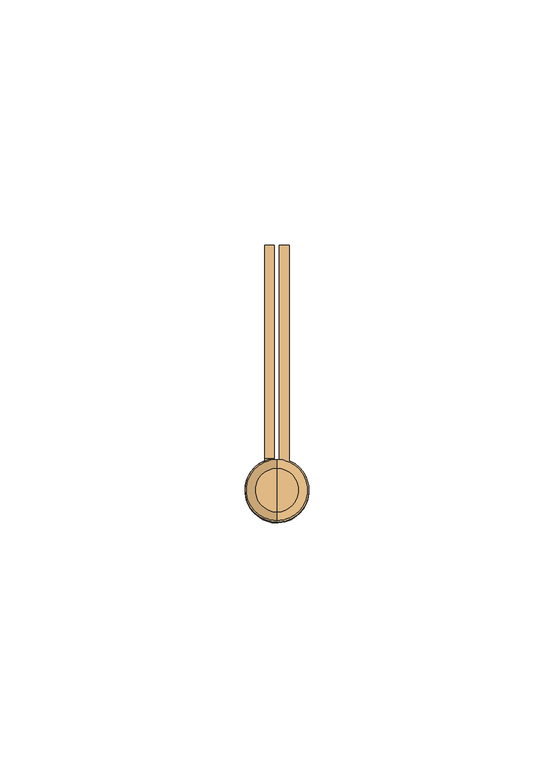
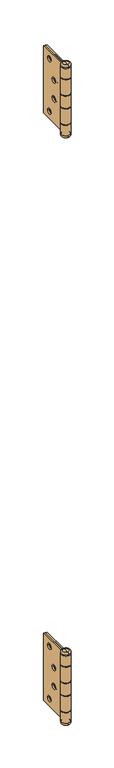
"""IFC4 building model written with IfcOpenShell, lengths in millimetres: door geometry, Puerta contraplacada : Puerta contraplacada 0.7x2.10 m."""

from ifc_helpers import new_model, si_unit, point, frame, origin, place, context, project, spatial, polyline, circle_curve, ellipse_curve, trimmed, source, transform, mapped, element, save
from ifc_brep_helpers import plane_surface, cylinder_surface, revolved_surface, advanced_brep


def door_81789954(model_context):
    return source(origin(), model_context, "Body", "AdvancedBrep", [
        advanced_brep(
        [(-314.0, -7.5, 1950.0), (-314.0, -51.5, 1950.0), (-314.0, -51.5, 1934.5), (-314.0, -51.0, 1934.5), (-314.0, -51.0, 1909.0), (-314.0, -51.5, 1909.0), (-314.0, -51.5, 1891.0), (-314.0, -51.0, 1891.0), (-314.0, -51.0, 1865.5), (-314.0, -51.5, 1865.5), (-314.0, -51.5, 1850.0), (-314.0, -7.5, 1850.0), (-314.0, -17.5, 1861.0), (-314.0, -25.5, 1861.0), (-314.0, -28.5, 1886.0), (-314.0, -36.5, 1886.0), (-314.0, -17.5, 1939.0), (-314.0, -25.5, 1939.0), (-314.0, -28.5, 1914.0), (-314.0, -36.5, 1914.0), (-316.0, -7.5, 1850.0), (-316.0, -53.027864, 1850.0), (-316.0, -53.027864, 1865.5), (-316.0, -51.0, 1865.5), (-316.0, -51.0, 1891.0), (-316.0, -53.027864, 1891.0), (-316.0, -53.027864, 1909.0), (-316.0, -51.0, 1909.0), (-316.0, -51.0, 1934.5), (-316.0, -53.027864, 1934.5), (-316.0, -53.027864, 1950.0), (-316.0, -7.5, 1950.0), (-316.0, -25.5, 1861.0), (-316.0, -17.5, 1861.0), (-316.0, -36.5, 1886.0), (-316.0, -28.5, 1886.0), (-316.0, -25.5, 1939.0), (-316.0, -17.5, 1939.0), (-316.0, -36.5, 1914.0), (-316.0, -28.5, 1914.0), (-317.0, -51.0192593, 1850.0), (-317.0, -53.027864, 1850.0), (-317.0, -53.027864, 1950.0), (-317.0, -51.0192593, 1950.0), (-317.0, -51.0192593, 1934.5), (-317.0, -53.027864, 1934.5), (-317.0, -53.027864, 1909.0), (-317.0, -51.0192593, 1909.0), (-317.0, -51.0192593, 1891.0), (-317.0, -53.027864, 1891.0), (-317.0, -53.027864, 1865.5), (-317.0, -51.0192593, 1865.5)],
        [
            (0, 1),
            (1, 2),
            (2, 3),
            (3, 4),
            (4, 5),
            (5, 6),
            (6, 7),
            (7, 8),
            (8, 9),
            (9, 10),
            (10, 11),
            (11, 0),
            (12, 13, circle_curve(frame((-314.0, -21.5, 1861.0), z_axis=(-1.0, 0.0, 0.0), x_axis=(0.0, 1.0, 0.0)), 4.0)),
            (13, 12, circle_curve(frame((-314.0, -21.5, 1861.0), z_axis=(-1.0, 0.0, 0.0), x_axis=(0.0, 1.0, 0.0)), 4.0)),
            (14, 15, circle_curve(frame((-314.0, -32.5, 1886.0), z_axis=(-1.0, 0.0, 0.0), x_axis=(0.0, 1.0, 0.0)), 4.0)),
            (15, 14, circle_curve(frame((-314.0, -32.5, 1886.0), z_axis=(-1.0, 0.0, 0.0), x_axis=(0.0, 1.0, 0.0)), 4.0)),
            (16, 17, circle_curve(frame((-314.0, -21.5, 1939.0), z_axis=(-1.0, 0.0, 0.0), x_axis=(0.0, 1.0, 0.0)), 4.0)),
            (17, 16, circle_curve(frame((-314.0, -21.5, 1939.0), z_axis=(-1.0, 0.0, 0.0), x_axis=(0.0, 1.0, 0.0)), 4.0)),
            (18, 19, circle_curve(frame((-314.0, -32.5, 1914.0), z_axis=(-1.0, 0.0, 0.0), x_axis=(0.0, 1.0, 0.0)), 4.0)),
            (19, 18, circle_curve(frame((-314.0, -32.5, 1914.0), z_axis=(-1.0, 0.0, 0.0), x_axis=(0.0, 1.0, 0.0)), 4.0)),
            (20, 21),
            (21, 22),
            (22, 23),
            (23, 24),
            (24, 25),
            (25, 26),
            (26, 27),
            (27, 28),
            (28, 29),
            (29, 30),
            (30, 31),
            (31, 20),
            (32, 33, circle_curve(frame((-316.0, -21.5, 1861.0), z_axis=(1.0, 0.0, 0.0), x_axis=(0.0, 1.0, 0.0)), 4.0)),
            (33, 32, circle_curve(frame((-316.0, -21.5, 1861.0), z_axis=(1.0, 0.0, 0.0), x_axis=(0.0, 1.0, 0.0)), 4.0)),
            (34, 35, circle_curve(frame((-316.0, -32.5, 1886.0), z_axis=(1.0, 0.0, 0.0), x_axis=(0.0, 1.0, 0.0)), 4.0)),
            (35, 34, circle_curve(frame((-316.0, -32.5, 1886.0), z_axis=(1.0, 0.0, 0.0), x_axis=(0.0, 1.0, 0.0)), 4.0)),
            (36, 37, circle_curve(frame((-316.0, -21.5, 1939.0), z_axis=(1.0, 0.0, 0.0), x_axis=(0.0, 1.0, 0.0)), 4.0)),
            (37, 36, circle_curve(frame((-316.0, -21.5, 1939.0), z_axis=(1.0, 0.0, 0.0), x_axis=(0.0, 1.0, 0.0)), 4.0)),
            (38, 39, circle_curve(frame((-316.0, -32.5, 1914.0), z_axis=(1.0, 0.0, 0.0), x_axis=(0.0, 1.0, 0.0)), 4.0)),
            (39, 38, circle_curve(frame((-316.0, -32.5, 1914.0), z_axis=(1.0, 0.0, 0.0), x_axis=(0.0, 1.0, 0.0)), 4.0)),
            (10, 40, circle_curve(frame((-316.5, -57.5, 1850.0), z_axis=(0.0, 0.0, -1.0), x_axis=(0.0, -1.0, 0.0)), 6.5)),
            (40, 41),
            (41, 21, circle_curve(frame((-316.5, -57.5, 1850.0), z_axis=(0.0, 0.0, 1.0), x_axis=(0.0, -1.0, 0.0)), 4.5)),
            (20, 11),
            (31, 0),
            (30, 42, circle_curve(frame((-316.5, -57.5, 1950.0), z_axis=(0.0, 0.0, -1.0), x_axis=(0.0, -1.0, 0.0)), 4.5)),
            (42, 43),
            (43, 1, circle_curve(frame((-316.5, -57.5, 1950.0), z_axis=(0.0, 0.0, 1.0), x_axis=(0.0, -1.0, 0.0)), 6.5)),
            (27, 4),
            (3, 28),
            (23, 8),
            (7, 24),
            (2, 44, circle_curve(frame((-316.5, -57.5, 1934.5), z_axis=(0.0, 0.0, -1.0), x_axis=(0.0, -1.0, 0.0)), 6.5)),
            (44, 45),
            (45, 29, circle_curve(frame((-316.5, -57.5, 1934.5), z_axis=(0.0, 0.0, 1.0), x_axis=(0.0, -1.0, 0.0)), 4.5)),
            (43, 44),
            (42, 45),
            (26, 46, circle_curve(frame((-316.5, -57.5, 1909.0), z_axis=(0.0, 0.0, -1.0), x_axis=(0.0, -1.0, 0.0)), 4.5)),
            (46, 47),
            (47, 5, circle_curve(frame((-316.5, -57.5, 1909.0), z_axis=(0.0, 0.0, 1.0), x_axis=(0.0, -1.0, 0.0)), 6.5)),
            (6, 48, circle_curve(frame((-316.5, -57.5, 1891.0), z_axis=(0.0, 0.0, -1.0), x_axis=(0.0, -1.0, 0.0)), 6.5)),
            (48, 49),
            (49, 25, circle_curve(frame((-316.5, -57.5, 1891.0), z_axis=(0.0, 0.0, 1.0), x_axis=(0.0, -1.0, 0.0)), 4.5)),
            (47, 48),
            (46, 49),
            (22, 50, circle_curve(frame((-316.5, -57.5, 1865.5), z_axis=(0.0, 0.0, -1.0), x_axis=(0.0, -1.0, 0.0)), 4.5)),
            (50, 51),
            (51, 9, circle_curve(frame((-316.5, -57.5, 1865.5), z_axis=(0.0, 0.0, 1.0), x_axis=(0.0, -1.0, 0.0)), 6.5)),
            (51, 40),
            (50, 41),
            (33, 12),
            (13, 32),
            (35, 14),
            (15, 34),
            (37, 16),
            (17, 36),
            (39, 18),
            (19, 38),
        ],
        [
            plane_surface(frame((-314.0, -51.0, 1850.0), z_axis=(1.0, 0.0, 0.0), x_axis=(0.0, 0.0, 1.0))),
            plane_surface(frame((-316.0, -51.0, 1850.0), z_axis=(-1.0, 0.0, 0.0), x_axis=(0.0, 0.0, -1.0))),
            plane_surface(frame((-314.0, -7.5, 1850.0), z_axis=(0.0, 0.0, -1.0), x_axis=(-1.0, 0.0, 0.0))),
            plane_surface(frame((-314.0, -7.5, 1950.0), z_axis=(0.0, 1.0, 0.0), x_axis=(-1.0, 0.0, 0.0))),
            plane_surface(frame((-314.0, -51.0, 1950.0), z_axis=(0.0, 0.0, 1.0), x_axis=(-1.0, 0.0, 0.0))),
            plane_surface(frame((-314.0, -51.0, 1850.0), z_axis=(0.0, -1.0, 0.0), x_axis=(-1.0, 0.0, 0.0))),
            plane_surface(frame((-316.0, -51.0, 1934.5), z_axis=(0.0, 0.0, -1.0), x_axis=(0.0, -1.0, 0.0))),
            cylinder_surface(frame((-316.5, -57.5, 1934.5), z_axis=(0.0, 0.0, 1.0), x_axis=(0.0, -1.0, 0.0)), 6.5),
            plane_surface(frame((-317.0, -51.0192593, 1950.0), z_axis=(1.0, 0.0, 0.0), x_axis=(0.0, 0.0, -1.0))),
            revolved_surface(polyline([(-316.5, -62.0, 1934.5), (-316.5, -62.0, 1950.0)]), (-316.5, -57.5, 1934.5), (0.0, 0.0, -1.0)),
            plane_surface(frame((-316.0, -51.0, 1909.0), z_axis=(0.0, 0.0, 1.0), x_axis=(0.0, 1.0, 0.0))),
            plane_surface(frame((-316.0, -51.0, 1891.0), z_axis=(0.0, 0.0, -1.0), x_axis=(0.0, -1.0, 0.0))),
            cylinder_surface(frame((-316.5, -57.5, 1891.0), z_axis=(0.0, 0.0, 1.0), x_axis=(0.0, -1.0, 0.0)), 6.5),
            plane_surface(frame((-317.0, -51.0192593, 1909.0), z_axis=(1.0, 0.0, 0.0), x_axis=(0.0, 0.0, -1.0))),
            revolved_surface(polyline([(-316.5, -62.0, 1891.0), (-316.5, -62.0, 1909.0)]), (-316.5, -57.5, 1891.0), (0.0, 0.0, -1.0)),
            plane_surface(frame((-316.0, -51.0, 1865.5), z_axis=(0.0, 0.0, 1.0), x_axis=(0.0, 1.0, 0.0))),
            cylinder_surface(frame((-316.5, -57.5, 1850.0), z_axis=(0.0, 0.0, 1.0), x_axis=(0.0, -1.0, 0.0)), 6.5),
            plane_surface(frame((-317.0, -51.0192593, 1865.5), z_axis=(1.0, 0.0, 0.0), x_axis=(0.0, 0.0, -1.0))),
            revolved_surface(polyline([(-316.5, -62.0, 1850.0), (-316.5, -62.0, 1865.5)]), (-316.5, -57.5, 1850.0), (0.0, 0.0, -1.0)),
            revolved_surface(polyline([(-314.0, -17.5, 1861.0), (-316.0, -17.5, 1861.0)]), (-319.0, -21.5, 1861.0), (1.0, 0.0, 0.0)),
            revolved_surface(polyline([(-314.0, -28.5, 1886.0), (-316.0, -28.5, 1886.0)]), (-317.0, -32.5, 1886.0), (1.0, 0.0, 0.0)),
            revolved_surface(polyline([(-314.0, -17.5, 1939.0), (-316.0, -17.5, 1939.0)]), (-317.0, -21.5, 1939.0), (1.0, 0.0, 0.0)),
            revolved_surface(polyline([(-314.0, -28.5, 1914.0), (-316.0, -28.5, 1914.0)]), (-317.0, -32.5, 1914.0), (1.0, 0.0, 0.0)),
        ],
        [
            (0, [[1, 2, 3, 4, 5, 6, 7, 8, 9, 10, 11, 12], [13, 14], [15, 16], [17, 18], [19, 20]]),
            (1, [[21, 22, 23, 24, 25, 26, 27, 28, 29, 30, 31, 32], [33, 34], [35, 36], [37, 38], [39, 40]]),
            (2, [[-11, 41, 42, 43, -21, 44]]),
            (3, [[-44, -32, 45, -12]]),
            (4, [[-31, 46, 47, 48, -1, -45]]),
            (5, [[-28, 49, -4, 50]]),
            (5, [[-24, 51, -8, 52]]),
            (6, [[-29, -50, -3, 53, 54, 55]]),
            (7, [[56, -53, -2, -48]]),
            (8, [[57, -54, -56, -47]]),
            (9, [[-30, -55, -57, -46]]),
            (10, [[-5, -49, -27, 58, 59, 60]]),
            (11, [[-25, -52, -7, 61, 62, 63]]),
            (12, [[64, -61, -6, -60]]),
            (13, [[65, -62, -64, -59]]),
            (14, [[-26, -63, -65, -58]]),
            (15, [[-9, -51, -23, 66, 67, 68]]),
            (16, [[69, -41, -10, -68]]),
            (17, [[70, -42, -69, -67]]),
            (18, [[-22, -43, -70, -66]]),
            (19, [[-34, 71, -14, 72]]),
            (19, [[-13, -71, -33, -72]]),
            (20, [[-36, 73, -16, 74]]),
            (20, [[-15, -73, -35, -74]]),
            (21, [[-38, 75, -18, 76]]),
            (21, [[-17, -75, -37, -76]]),
            (22, [[-40, 77, -20, 78]]),
            (22, [[-19, -77, -39, -78]]),
        ],
    ),
        advanced_brep(
        [(-316.5, -53.0, 1954.0), (-316.5, -53.0, 1950.5), (-316.5, -61.9442719, 1950.5), (-316.5, -61.9442719, 1954.0), (-316.5, -57.472136, 1954.0), (-316.5, -53.0, 1846.0), (-316.5, -57.472136, 1846.0), (-316.5, -61.9442719, 1846.0), (-316.5, -53.0, 1849.5), (-316.5, -61.9442719, 1849.5)],
        [
            (0, 1, circle_curve(frame((-316.5, -53.0, 1952.25), z_axis=(-1.0, 0.0, 0.0), x_axis=(0.0, -1.0, 0.0)), 1.75)),
            (1, 2, circle_curve(frame((-316.5, -57.472136, 1950.5), z_axis=(0.0, 0.0, 1.0), x_axis=(0.0, -1.0, 0.0)), 4.472136)),
            (2, 3, circle_curve(frame((-316.5, -61.9442719, 1952.25), z_axis=(-1.0, 0.0, 0.0), x_axis=(0.0, 1.0, 0.0)), 1.75)),
            (3, 0, circle_curve(frame((-316.5, -57.472136, 1954.0), z_axis=(0.0, 0.0, -1.0), x_axis=(0.0, -1.0, 0.0)), 4.472136)),
            (2, 1, circle_curve(frame((-316.5, -57.472136, 1950.5), z_axis=(0.0, 0.0, 1.0), x_axis=(0.0, -1.0, 0.0)), 4.472136)),
            (0, 3, circle_curve(frame((-316.5, -57.472136, 1954.0), z_axis=(0.0, 0.0, -1.0), x_axis=(0.0, -1.0, 0.0)), 4.472136)),
            (4, 0),
            (3, 4),
            (5, 6),
            (6, 7),
            (7, 5, circle_curve(frame((-316.5, -57.472136, 1846.0), z_axis=(0.0, 0.0, -1.0), x_axis=(0.0, -1.0, 0.0)), 4.472136)),
            (5, 7, circle_curve(frame((-316.5, -57.472136, 1846.0), z_axis=(0.0, 0.0, -1.0), x_axis=(0.0, -1.0, 0.0)), 4.472136)),
            (8, 5, circle_curve(frame((-316.5, -53.0, 1847.75), z_axis=(-1.0, 0.0, 0.0), x_axis=(0.0, -1.0, 0.0)), 1.75)),
            (7, 9, circle_curve(frame((-316.5, -61.9442719, 1847.75), z_axis=(-1.0, 0.0, 0.0), x_axis=(0.0, 1.0, 0.0)), 1.75)),
            (9, 8, circle_curve(frame((-316.5, -57.472136, 1849.5), z_axis=(0.0, 0.0, -1.0), x_axis=(0.0, -1.0, 0.0)), 4.472136)),
            (8, 9, circle_curve(frame((-316.5, -57.472136, 1849.5), z_axis=(0.0, 0.0, -1.0), x_axis=(0.0, -1.0, 0.0)), 4.472136)),
            (1, 8),
            (9, 2),
        ],
        [
            revolved_surface(trimmed(ellipse_curve(frame((-316.5, -61.9442719, 1952.25), z_axis=(-1.0, 0.0, 0.0), x_axis=(0.0, 1.0, 0.0)), 1.75, 1.75), [point((-316.5, -61.9442719, 1950.5))], [point((-316.5, -61.9442719, 1954.0))], True, "CARTESIAN"), (-316.5, -57.472136, 1954.0), (0.0, 0.0, 1.0)),
            plane_surface(frame((-316.5, -57.472136, 1954.0), z_axis=(0.0, 0.0, 1.0), x_axis=(0.0, -1.0, 0.0))),
            plane_surface(frame((-316.5, -57.472136, 1846.0), z_axis=(0.0, 0.0, -1.0), x_axis=(0.0, -1.0, 0.0))),
            revolved_surface(trimmed(ellipse_curve(frame((-316.5, -61.9442719, 1847.75), z_axis=(-1.0, 0.0, 0.0), x_axis=(0.0, 1.0, 0.0)), 1.75, 1.75), [point((-316.5, -61.9442719, 1846.0))], [point((-316.5, -61.9442719, 1849.5))], True, "CARTESIAN"), (-316.5, -57.472136, 1954.0), (0.0, 0.0, 1.0)),
            cylinder_surface(frame((-316.5, -57.472136, 1954.0), z_axis=(0.0, 0.0, 1.0), x_axis=(0.0, -1.0, 0.0)), 4.472136),
        ],
        [
            (0, [[1, 2, 3, 4]]),
            (0, [[-3, 5, -1, 6]]),
            (1, [[7, -4, 8]]),
            (1, [[-8, -6, -7]]),
            (2, [[9, 10, 11]]),
            (2, [[-10, -9, 12]]),
            (3, [[13, -11, 14, 15]]),
            (3, [[-14, -12, -13, 16]]),
            (4, [[17, -15, 18, -2]]),
            (4, [[-18, -16, -17, -5]]),
        ],
    ),
        advanced_brep(
        [(-317.0, -51.0, 1950.0), (-317.0, -51.0, 1933.5), (-317.0, -53.027864, 1933.5), (-317.0, -53.027864, 1910.0), (-317.0, -51.0, 1910.0), (-317.0, -51.0, 1890.0), (-317.0, -53.027864, 1890.0), (-317.0, -53.027864, 1866.5), (-317.0, -51.0, 1866.5), (-317.0, -51.0, 1850.0), (-317.0, -7.5, 1850.0), (-317.0, -7.5, 1950.0), (-317.0, -17.5, 1861.0), (-317.0, -25.5, 1861.0), (-317.0, -28.5, 1886.0), (-317.0, -36.5, 1886.0), (-317.0, -17.5, 1939.0), (-317.0, -25.5, 1939.0), (-317.0, -28.5, 1914.0), (-317.0, -36.5, 1914.0), (-319.0, -51.0, 1850.0), (-319.0, -51.0, 1866.5), (-319.0, -51.5, 1866.5), (-319.0, -51.5, 1890.0), (-319.0, -51.0, 1890.0), (-319.0, -51.0, 1910.0), (-319.0, -51.5, 1910.0), (-319.0, -51.5, 1933.5), (-319.0, -51.0, 1933.5), (-319.0, -51.0, 1950.0), (-319.0, -7.5, 1950.0), (-319.0, -7.5, 1850.0), (-319.0, -25.5, 1861.0), (-319.0, -17.5, 1861.0), (-319.0, -36.5, 1886.0), (-319.0, -28.5, 1886.0), (-319.0, -25.5, 1939.0), (-319.0, -17.5, 1939.0), (-319.0, -36.5, 1914.0), (-319.0, -28.5, 1914.0), (-316.0, -51.0192593, 1933.5), (-316.0, -53.027864, 1933.5), (-316.0, -53.027864, 1910.0), (-316.0, -51.0192593, 1910.0), (-316.0, -51.0192593, 1890.0), (-316.0, -53.027864, 1890.0), (-316.0, -53.027864, 1866.5), (-316.0, -51.0192593, 1866.5)],
        [
            (0, 1),
            (1, 2),
            (2, 3),
            (3, 4),
            (4, 5),
            (5, 6),
            (6, 7),
            (7, 8),
            (8, 9),
            (9, 10),
            (10, 11),
            (11, 0),
            (12, 13, circle_curve(frame((-317.0, -21.5, 1861.0), z_axis=(-1.0, 0.0, 0.0), x_axis=(0.0, 1.0, 0.0)), 4.0)),
            (13, 12, circle_curve(frame((-317.0, -21.5, 1861.0), z_axis=(-1.0, 0.0, 0.0), x_axis=(0.0, 1.0, 0.0)), 4.0)),
            (14, 15, circle_curve(frame((-317.0, -32.5, 1886.0), z_axis=(-1.0, 0.0, 0.0), x_axis=(0.0, 1.0, 0.0)), 4.0)),
            (15, 14, circle_curve(frame((-317.0, -32.5, 1886.0), z_axis=(-1.0, 0.0, 0.0), x_axis=(0.0, 1.0, 0.0)), 4.0)),
            (16, 17, circle_curve(frame((-317.0, -21.5, 1939.0), z_axis=(-1.0, 0.0, 0.0), x_axis=(0.0, 1.0, 0.0)), 4.0)),
            (17, 16, circle_curve(frame((-317.0, -21.5, 1939.0), z_axis=(-1.0, 0.0, 0.0), x_axis=(0.0, 1.0, 0.0)), 4.0)),
            (18, 19, circle_curve(frame((-317.0, -32.5, 1914.0), z_axis=(-1.0, 0.0, 0.0), x_axis=(0.0, 1.0, 0.0)), 4.0)),
            (19, 18, circle_curve(frame((-317.0, -32.5, 1914.0), z_axis=(-1.0, 0.0, 0.0), x_axis=(0.0, 1.0, 0.0)), 4.0)),
            (20, 21),
            (21, 22),
            (22, 23),
            (23, 24),
            (24, 25),
            (25, 26),
            (26, 27),
            (27, 28),
            (28, 29),
            (29, 30),
            (30, 31),
            (31, 20),
            (32, 33, circle_curve(frame((-319.0, -21.5, 1861.0), z_axis=(1.0, 0.0, 0.0), x_axis=(0.0, 1.0, 0.0)), 4.0)),
            (33, 32, circle_curve(frame((-319.0, -21.5, 1861.0), z_axis=(1.0, 0.0, 0.0), x_axis=(0.0, 1.0, 0.0)), 4.0)),
            (34, 35, circle_curve(frame((-319.0, -32.5, 1886.0), z_axis=(1.0, 0.0, 0.0), x_axis=(0.0, 1.0, 0.0)), 4.0)),
            (35, 34, circle_curve(frame((-319.0, -32.5, 1886.0), z_axis=(1.0, 0.0, 0.0), x_axis=(0.0, 1.0, 0.0)), 4.0)),
            (36, 37, circle_curve(frame((-319.0, -21.5, 1939.0), z_axis=(1.0, 0.0, 0.0), x_axis=(0.0, 1.0, 0.0)), 4.0)),
            (37, 36, circle_curve(frame((-319.0, -21.5, 1939.0), z_axis=(1.0, 0.0, 0.0), x_axis=(0.0, 1.0, 0.0)), 4.0)),
            (38, 39, circle_curve(frame((-319.0, -32.5, 1914.0), z_axis=(1.0, 0.0, 0.0), x_axis=(0.0, 1.0, 0.0)), 4.0)),
            (39, 38, circle_curve(frame((-319.0, -32.5, 1914.0), z_axis=(1.0, 0.0, 0.0), x_axis=(0.0, 1.0, 0.0)), 4.0)),
            (9, 20),
            (31, 10),
            (30, 11),
            (29, 0),
            (8, 21),
            (28, 1),
            (24, 5),
            (4, 25),
            (27, 40, circle_curve(frame((-316.5, -57.5, 1933.5), z_axis=(0.0, 0.0, 1.0), x_axis=(0.0, -1.0, 0.0)), 6.5)),
            (40, 41),
            (41, 2, circle_curve(frame((-316.5, -57.5, 1933.5), z_axis=(0.0, 0.0, -1.0), x_axis=(0.0, -1.0, 0.0)), 4.5)),
            (3, 42, circle_curve(frame((-316.5, -57.5, 1910.0), z_axis=(0.0, 0.0, 1.0), x_axis=(0.0, -1.0, 0.0)), 4.5)),
            (42, 43),
            (43, 26, circle_curve(frame((-316.5, -57.5, 1910.0), z_axis=(0.0, 0.0, -1.0), x_axis=(0.0, -1.0, 0.0)), 6.5)),
            (43, 40),
            (42, 41),
            (23, 44, circle_curve(frame((-316.5, -57.5, 1890.0), z_axis=(0.0, 0.0, 1.0), x_axis=(0.0, -1.0, 0.0)), 6.5)),
            (44, 45),
            (45, 6, circle_curve(frame((-316.5, -57.5, 1890.0), z_axis=(0.0, 0.0, -1.0), x_axis=(0.0, -1.0, 0.0)), 4.5)),
            (7, 46, circle_curve(frame((-316.5, -57.5, 1866.5), z_axis=(0.0, 0.0, 1.0), x_axis=(0.0, -1.0, 0.0)), 4.5)),
            (46, 47),
            (47, 22, circle_curve(frame((-316.5, -57.5, 1866.5), z_axis=(0.0, 0.0, -1.0), x_axis=(0.0, -1.0, 0.0)), 6.5)),
            (47, 44),
            (46, 45),
            (33, 12),
            (13, 32),
            (35, 14),
            (15, 34),
            (37, 16),
            (17, 36),
            (39, 18),
            (19, 38),
        ],
        [
            plane_surface(frame((-317.0, -51.0, 1850.0), z_axis=(1.0, 0.0, 0.0), x_axis=(0.0, 0.0, 1.0))),
            plane_surface(frame((-319.0, -51.0, 1850.0), z_axis=(-1.0, 0.0, 0.0), x_axis=(0.0, 0.0, -1.0))),
            plane_surface(frame((-317.0, -7.5, 1850.0), z_axis=(0.0, 0.0, -1.0), x_axis=(-1.0, 0.0, 0.0))),
            plane_surface(frame((-317.0, -7.5, 1950.0), z_axis=(0.0, 1.0, 0.0), x_axis=(-1.0, 0.0, 0.0))),
            plane_surface(frame((-317.0, -51.0, 1950.0), z_axis=(0.0, 0.0, 1.0), x_axis=(-1.0, 0.0, 0.0))),
            plane_surface(frame((-317.0, -51.0, 1850.0), z_axis=(0.0, -1.0, 0.0), x_axis=(-1.0, 0.0, 0.0))),
            plane_surface(frame((-316.5, -62.0, 1933.5), z_axis=(0.0, 0.0, 1.0), x_axis=(1.0, 0.0, 0.0))),
            plane_surface(frame((-316.5, -62.0, 1910.0), z_axis=(0.0, 0.0, -1.0), x_axis=(-1.0, 0.0, 0.0))),
            cylinder_surface(frame((-316.5, -57.5, 1910.0), z_axis=(0.0, 0.0, 1.0), x_axis=(0.0, -1.0, 0.0)), 6.5),
            plane_surface(frame((-316.0, -53.027864, 1933.5), z_axis=(-1.0, 0.0, 0.0), x_axis=(0.0, 0.0, -1.0))),
            revolved_surface(polyline([(-316.5, -62.0, 1910.0), (-316.5, -62.0, 1933.5)]), (-316.5, -57.5, 1910.0), (0.0, 0.0, -1.0)),
            plane_surface(frame((-316.5, -62.0, 1890.0), z_axis=(0.0, 0.0, 1.0), x_axis=(1.0, 0.0, 0.0))),
            plane_surface(frame((-316.5, -62.0, 1866.5), z_axis=(0.0, 0.0, -1.0), x_axis=(-1.0, 0.0, 0.0))),
            cylinder_surface(frame((-316.5, -57.5, 1866.5), z_axis=(0.0, 0.0, 1.0), x_axis=(0.0, -1.0, 0.0)), 6.5),
            plane_surface(frame((-316.0, -53.027864, 1890.0), z_axis=(-1.0, 0.0, 0.0), x_axis=(0.0, 0.0, -1.0))),
            revolved_surface(polyline([(-316.5, -62.0, 1866.5), (-316.5, -62.0, 1890.0)]), (-316.5, -57.5, 1866.5), (0.0, 0.0, -1.0)),
            revolved_surface(polyline([(-317.0, -17.5, 1861.0), (-319.0, -17.5, 1861.0)]), (-319.0, -21.5, 1861.0), (1.0, 0.0, 0.0)),
            revolved_surface(polyline([(-317.0, -28.5, 1886.0), (-319.0, -28.5, 1886.0)]), (-317.0, -32.5, 1886.0), (1.0, 0.0, 0.0)),
            revolved_surface(polyline([(-317.0, -17.5, 1939.0), (-319.0, -17.5, 1939.0)]), (-317.0, -21.5, 1939.0), (1.0, 0.0, 0.0)),
            revolved_surface(polyline([(-317.0, -28.5, 1914.0), (-319.0, -28.5, 1914.0)]), (-317.0, -32.5, 1914.0), (1.0, 0.0, 0.0)),
        ],
        [
            (0, [[1, 2, 3, 4, 5, 6, 7, 8, 9, 10, 11, 12], [13, 14], [15, 16], [17, 18], [19, 20]]),
            (1, [[21, 22, 23, 24, 25, 26, 27, 28, 29, 30, 31, 32], [33, 34], [35, 36], [37, 38], [39, 40]]),
            (2, [[41, -32, 42, -10]]),
            (3, [[-42, -31, 43, -11]]),
            (4, [[-43, -30, 44, -12]]),
            (5, [[-9, 45, -21, -41]]),
            (5, [[-29, 46, -1, -44]]),
            (5, [[-25, 47, -5, 48]]),
            (6, [[-2, -46, -28, 49, 50, 51]]),
            (7, [[-26, -48, -4, 52, 53, 54]]),
            (8, [[-27, -54, 55, -49]]),
            (9, [[-55, -53, 56, -50]]),
            (10, [[-56, -52, -3, -51]]),
            (11, [[-6, -47, -24, 57, 58, 59]]),
            (12, [[-22, -45, -8, 60, 61, 62]]),
            (13, [[-23, -62, 63, -57]]),
            (14, [[-63, -61, 64, -58]]),
            (15, [[-64, -60, -7, -59]]),
            (16, [[-34, 65, -14, 66]]),
            (16, [[-13, -65, -33, -66]]),
            (17, [[-36, 67, -16, 68]]),
            (17, [[-15, -67, -35, -68]]),
            (18, [[-38, 69, -18, 70]]),
            (18, [[-17, -69, -37, -70]]),
            (19, [[-40, 71, -20, 72]]),
            (19, [[-19, -71, -39, -72]]),
        ],
    ),
        advanced_brep(
        [(-314.0, -7.5, 1075.0174632), (-314.0, -51.5, 1075.0174632), (-314.0, -51.5, 1059.5174632), (-314.0, -51.0, 1059.5174632), (-314.0, -51.0, 1034.0174632), (-314.0, -51.5, 1034.0174632), (-314.0, -51.5, 1016.0174632), (-314.0, -51.0, 1016.0174632), (-314.0, -51.0, 990.5174632), (-314.0, -51.5, 990.5174632), (-314.0, -51.5, 975.0174632), (-314.0, -7.5, 975.0174632), (-314.0, -17.5, 986.0174632), (-314.0, -25.5, 986.0174632), (-314.0, -28.5, 1011.0174632), (-314.0, -36.5, 1011.0174632), (-314.0, -17.5, 1064.0174632), (-314.0, -25.5, 1064.0174632), (-314.0, -28.5, 1039.0174632), (-314.0, -36.5, 1039.0174632), (-316.0, -7.5, 975.0174632), (-316.0, -53.027864, 975.0174632), (-316.0, -53.027864, 990.5174632), (-316.0, -51.0, 990.5174632), (-316.0, -51.0, 1016.0174632), (-316.0, -53.027864, 1016.0174632), (-316.0, -53.027864, 1034.0174632), (-316.0, -51.0, 1034.0174632), (-316.0, -51.0, 1059.5174632), (-316.0, -53.027864, 1059.5174632), (-316.0, -53.027864, 1075.0174632), (-316.0, -7.5, 1075.0174632), (-316.0, -25.5, 986.0174632), (-316.0, -17.5, 986.0174632), (-316.0, -36.5, 1011.0174632), (-316.0, -28.5, 1011.0174632), (-316.0, -25.5, 1064.0174632), (-316.0, -17.5, 1064.0174632), (-316.0, -36.5, 1039.0174632), (-316.0, -28.5, 1039.0174632), (-317.0, -51.0192593, 975.0174632), (-317.0, -53.027864, 975.0174632), (-317.0, -53.027864, 1075.0174632), (-317.0, -51.0192593, 1075.0174632), (-317.0, -51.0192593, 1059.5174632), (-317.0, -53.027864, 1059.5174632), (-317.0, -53.027864, 1034.0174632), (-317.0, -51.0192593, 1034.0174632), (-317.0, -51.0192593, 1016.0174632), (-317.0, -53.027864, 1016.0174632), (-317.0, -53.027864, 990.5174632), (-317.0, -51.0192593, 990.5174632)],
        [
            (0, 1),
            (1, 2),
            (2, 3),
            (3, 4),
            (4, 5),
            (5, 6),
            (6, 7),
            (7, 8),
            (8, 9),
            (9, 10),
            (10, 11),
            (11, 0),
            (12, 13, circle_curve(frame((-314.0, -21.5, 986.0174632), z_axis=(-1.0, 0.0, 0.0), x_axis=(0.0, 1.0, 0.0)), 4.0)),
            (13, 12, circle_curve(frame((-314.0, -21.5, 986.0174632), z_axis=(-1.0, 0.0, 0.0), x_axis=(0.0, 1.0, 0.0)), 4.0)),
            (14, 15, circle_curve(frame((-314.0, -32.5, 1011.0174632), z_axis=(-1.0, 0.0, 0.0), x_axis=(0.0, 1.0, 0.0)), 4.0)),
            (15, 14, circle_curve(frame((-314.0, -32.5, 1011.0174632), z_axis=(-1.0, 0.0, 0.0), x_axis=(0.0, 1.0, 0.0)), 4.0)),
            (16, 17, circle_curve(frame((-314.0, -21.5, 1064.0174632), z_axis=(-1.0, 0.0, 0.0), x_axis=(0.0, 1.0, 0.0)), 4.0)),
            (17, 16, circle_curve(frame((-314.0, -21.5, 1064.0174632), z_axis=(-1.0, 0.0, 0.0), x_axis=(0.0, 1.0, 0.0)), 4.0)),
            (18, 19, circle_curve(frame((-314.0, -32.5, 1039.0174632), z_axis=(-1.0, 0.0, 0.0), x_axis=(0.0, 1.0, 0.0)), 4.0)),
            (19, 18, circle_curve(frame((-314.0, -32.5, 1039.0174632), z_axis=(-1.0, 0.0, 0.0), x_axis=(0.0, 1.0, 0.0)), 4.0)),
            (20, 21),
            (21, 22),
            (22, 23),
            (23, 24),
            (24, 25),
            (25, 26),
            (26, 27),
            (27, 28),
            (28, 29),
            (29, 30),
            (30, 31),
            (31, 20),
            (32, 33, circle_curve(frame((-316.0, -21.5, 986.0174632), z_axis=(1.0, 0.0, 0.0), x_axis=(0.0, 1.0, 0.0)), 4.0)),
            (33, 32, circle_curve(frame((-316.0, -21.5, 986.0174632), z_axis=(1.0, 0.0, 0.0), x_axis=(0.0, 1.0, 0.0)), 4.0)),
            (34, 35, circle_curve(frame((-316.0, -32.5, 1011.0174632), z_axis=(1.0, 0.0, 0.0), x_axis=(0.0, 1.0, 0.0)), 4.0)),
            (35, 34, circle_curve(frame((-316.0, -32.5, 1011.0174632), z_axis=(1.0, 0.0, 0.0), x_axis=(0.0, 1.0, 0.0)), 4.0)),
            (36, 37, circle_curve(frame((-316.0, -21.5, 1064.0174632), z_axis=(1.0, 0.0, 0.0), x_axis=(0.0, 1.0, 0.0)), 4.0)),
            (37, 36, circle_curve(frame((-316.0, -21.5, 1064.0174632), z_axis=(1.0, 0.0, 0.0), x_axis=(0.0, 1.0, 0.0)), 4.0)),
            (38, 39, circle_curve(frame((-316.0, -32.5, 1039.0174632), z_axis=(1.0, 0.0, 0.0), x_axis=(0.0, 1.0, 0.0)), 4.0)),
            (39, 38, circle_curve(frame((-316.0, -32.5, 1039.0174632), z_axis=(1.0, 0.0, 0.0), x_axis=(0.0, 1.0, 0.0)), 4.0)),
            (10, 40, circle_curve(frame((-316.5, -57.5, 975.0174632), z_axis=(0.0, 0.0, -1.0), x_axis=(0.0, -1.0, 0.0)), 6.5)),
            (40, 41),
            (41, 21, circle_curve(frame((-316.5, -57.5, 975.0174632), z_axis=(0.0, 0.0, 1.0), x_axis=(0.0, -1.0, 0.0)), 4.5)),
            (20, 11),
            (31, 0),
            (30, 42, circle_curve(frame((-316.5, -57.5, 1075.0174632), z_axis=(0.0, 0.0, -1.0), x_axis=(0.0, -1.0, 0.0)), 4.5)),
            (42, 43),
            (43, 1, circle_curve(frame((-316.5, -57.5, 1075.0174632), z_axis=(0.0, 0.0, 1.0), x_axis=(0.0, -1.0, 0.0)), 6.5)),
            (27, 4),
            (3, 28),
            (23, 8),
            (7, 24),
            (2, 44, circle_curve(frame((-316.5, -57.5, 1059.5174632), z_axis=(0.0, 0.0, -1.0), x_axis=(0.0, -1.0, 0.0)), 6.5)),
            (44, 45),
            (45, 29, circle_curve(frame((-316.5, -57.5, 1059.5174632), z_axis=(0.0, 0.0, 1.0), x_axis=(0.0, -1.0, 0.0)), 4.5)),
            (43, 44),
            (42, 45),
            (26, 46, circle_curve(frame((-316.5, -57.5, 1034.0174632), z_axis=(0.0, 0.0, -1.0), x_axis=(0.0, -1.0, 0.0)), 4.5)),
            (46, 47),
            (47, 5, circle_curve(frame((-316.5, -57.5, 1034.0174632), z_axis=(0.0, 0.0, 1.0), x_axis=(0.0, -1.0, 0.0)), 6.5)),
            (6, 48, circle_curve(frame((-316.5, -57.5, 1016.0174632), z_axis=(0.0, 0.0, -1.0), x_axis=(0.0, -1.0, 0.0)), 6.5)),
            (48, 49),
            (49, 25, circle_curve(frame((-316.5, -57.5, 1016.0174632), z_axis=(0.0, 0.0, 1.0), x_axis=(0.0, -1.0, 0.0)), 4.5)),
            (47, 48),
            (46, 49),
            (22, 50, circle_curve(frame((-316.5, -57.5, 990.5174632), z_axis=(0.0, 0.0, -1.0), x_axis=(0.0, -1.0, 0.0)), 4.5)),
            (50, 51),
            (51, 9, circle_curve(frame((-316.5, -57.5, 990.5174632), z_axis=(0.0, 0.0, 1.0), x_axis=(0.0, -1.0, 0.0)), 6.5)),
            (51, 40),
            (50, 41),
            (33, 12),
            (13, 32),
            (35, 14),
            (15, 34),
            (37, 16),
            (17, 36),
            (39, 18),
            (19, 38),
        ],
        [
            plane_surface(frame((-314.0, -51.0, 975.0174632), z_axis=(1.0, 0.0, 0.0), x_axis=(0.0, 0.0, 1.0))),
            plane_surface(frame((-316.0, -51.0, 975.0174632), z_axis=(-1.0, 0.0, 0.0), x_axis=(0.0, 0.0, -1.0))),
            plane_surface(frame((-314.0, -7.5, 975.0174632), z_axis=(0.0, 0.0, -1.0), x_axis=(-1.0, 0.0, 0.0))),
            plane_surface(frame((-314.0, -7.5, 1075.0174632), z_axis=(0.0, 1.0, 0.0), x_axis=(-1.0, 0.0, 0.0))),
            plane_surface(frame((-314.0, -51.0, 1075.0174632), z_axis=(0.0, 0.0, 1.0), x_axis=(-1.0, 0.0, 0.0))),
            plane_surface(frame((-314.0, -51.0, 975.0174632), z_axis=(0.0, -1.0, 0.0), x_axis=(-1.0, 0.0, 0.0))),
            plane_surface(frame((-316.0, -51.0, 1059.5174632), z_axis=(0.0, 0.0, -1.0), x_axis=(0.0, -1.0, 0.0))),
            cylinder_surface(frame((-316.5, -57.5, 1059.5174632), z_axis=(0.0, 0.0, 1.0), x_axis=(0.0, -1.0, 0.0)), 6.5),
            plane_surface(frame((-317.0, -51.0192593, 1075.0174632), z_axis=(1.0, 0.0, 0.0), x_axis=(0.0, 0.0, -1.0))),
            revolved_surface(polyline([(-316.5, -62.0, 1059.5174632), (-316.5, -62.0, 1075.0174632)]), (-316.5, -57.5, 1059.5174632), (0.0, 0.0, -1.0)),
            plane_surface(frame((-316.0, -51.0, 1034.0174632), z_axis=(0.0, 0.0, 1.0), x_axis=(0.0, 1.0, 0.0))),
            plane_surface(frame((-316.0, -51.0, 1016.0174632), z_axis=(0.0, 0.0, -1.0), x_axis=(0.0, -1.0, 0.0))),
            cylinder_surface(frame((-316.5, -57.5, 1016.0174632), z_axis=(0.0, 0.0, 1.0), x_axis=(0.0, -1.0, 0.0)), 6.5),
            plane_surface(frame((-317.0, -51.0192593, 1034.0174632), z_axis=(1.0, 0.0, 0.0), x_axis=(0.0, 0.0, -1.0))),
            revolved_surface(polyline([(-316.5, -62.0, 1016.0174632), (-316.5, -62.0, 1034.0174632)]), (-316.5, -57.5, 1016.0174632), (0.0, 0.0, -1.0)),
            plane_surface(frame((-316.0, -51.0, 990.5174632), z_axis=(0.0, 0.0, 1.0), x_axis=(0.0, 1.0, 0.0))),
            cylinder_surface(frame((-316.5, -57.5, 975.0174632), z_axis=(0.0, 0.0, 1.0), x_axis=(0.0, -1.0, 0.0)), 6.5),
            plane_surface(frame((-317.0, -51.0192593, 990.5174632), z_axis=(1.0, 0.0, 0.0), x_axis=(0.0, 0.0, -1.0))),
            revolved_surface(polyline([(-316.5, -62.0, 975.0174632), (-316.5, -62.0, 990.5174632)]), (-316.5, -57.5, 975.0174632), (0.0, 0.0, -1.0)),
            revolved_surface(polyline([(-314.0, -17.5, 986.0174632), (-316.0, -17.5, 986.0174632)]), (-319.0, -21.5, 986.0174632), (1.0, 0.0, 0.0)),
            revolved_surface(polyline([(-314.0, -28.5, 1011.0174632), (-316.0, -28.5, 1011.0174632)]), (-317.0, -32.5, 1011.0174632), (1.0, 0.0, 0.0)),
            revolved_surface(polyline([(-314.0, -17.5, 1064.0174632), (-316.0, -17.5, 1064.0174632)]), (-317.0, -21.5, 1064.0174632), (1.0, 0.0, 0.0)),
            revolved_surface(polyline([(-314.0, -28.5, 1039.0174632), (-316.0, -28.5, 1039.0174632)]), (-317.0, -32.5, 1039.0174632), (1.0, 0.0, 0.0)),
        ],
        [
            (0, [[1, 2, 3, 4, 5, 6, 7, 8, 9, 10, 11, 12], [13, 14], [15, 16], [17, 18], [19, 20]]),
            (1, [[21, 22, 23, 24, 25, 26, 27, 28, 29, 30, 31, 32], [33, 34], [35, 36], [37, 38], [39, 40]]),
            (2, [[-11, 41, 42, 43, -21, 44]]),
            (3, [[-44, -32, 45, -12]]),
            (4, [[-31, 46, 47, 48, -1, -45]]),
            (5, [[-28, 49, -4, 50]]),
            (5, [[-24, 51, -8, 52]]),
            (6, [[-29, -50, -3, 53, 54, 55]]),
            (7, [[56, -53, -2, -48]]),
            (8, [[57, -54, -56, -47]]),
            (9, [[-30, -55, -57, -46]]),
            (10, [[-5, -49, -27, 58, 59, 60]]),
            (11, [[-25, -52, -7, 61, 62, 63]]),
            (12, [[64, -61, -6, -60]]),
            (13, [[65, -62, -64, -59]]),
            (14, [[-26, -63, -65, -58]]),
            (15, [[-9, -51, -23, 66, 67, 68]]),
            (16, [[69, -41, -10, -68]]),
            (17, [[70, -42, -69, -67]]),
            (18, [[-22, -43, -70, -66]]),
            (19, [[-34, 71, -14, 72]]),
            (19, [[-13, -71, -33, -72]]),
            (20, [[-36, 73, -16, 74]]),
            (20, [[-15, -73, -35, -74]]),
            (21, [[-38, 75, -18, 76]]),
            (21, [[-17, -75, -37, -76]]),
            (22, [[-40, 77, -20, 78]]),
            (22, [[-19, -77, -39, -78]]),
        ],
    ),
        advanced_brep(
        [(-316.5, -53.0, 1079.0174632), (-316.5, -53.0, 1075.5174632), (-316.5, -61.9442719, 1075.5174632), (-316.5, -61.9442719, 1079.0174632), (-316.5, -57.472136, 1079.0174632), (-316.5, -53.0, 971.0174632), (-316.5, -57.472136, 971.0174632), (-316.5, -61.9442719, 971.0174632), (-316.5, -53.0, 974.5174632), (-316.5, -61.9442719, 974.5174632)],
        [
            (0, 1, circle_curve(frame((-316.5, -53.0, 1077.2674632), z_axis=(-1.0, 0.0, 0.0), x_axis=(0.0, -1.0, 0.0)), 1.75)),
            (1, 2, circle_curve(frame((-316.5, -57.472136, 1075.5174632), z_axis=(0.0, 0.0, 1.0), x_axis=(0.0, -1.0, 0.0)), 4.472136)),
            (2, 3, circle_curve(frame((-316.5, -61.9442719, 1077.2674632), z_axis=(-1.0, 0.0, 0.0), x_axis=(0.0, 1.0, 0.0)), 1.75)),
            (3, 0, circle_curve(frame((-316.5, -57.472136, 1079.0174632), z_axis=(0.0, 0.0, -1.0), x_axis=(0.0, -1.0, 0.0)), 4.472136)),
            (2, 1, circle_curve(frame((-316.5, -57.472136, 1075.5174632), z_axis=(0.0, 0.0, 1.0), x_axis=(0.0, -1.0, 0.0)), 4.472136)),
            (0, 3, circle_curve(frame((-316.5, -57.472136, 1079.0174632), z_axis=(0.0, 0.0, -1.0), x_axis=(0.0, -1.0, 0.0)), 4.472136)),
            (4, 0),
            (3, 4),
            (5, 6),
            (6, 7),
            (7, 5, circle_curve(frame((-316.5, -57.472136, 971.0174632), z_axis=(0.0, 0.0, -1.0), x_axis=(0.0, -1.0, 0.0)), 4.472136)),
            (5, 7, circle_curve(frame((-316.5, -57.472136, 971.0174632), z_axis=(0.0, 0.0, -1.0), x_axis=(0.0, -1.0, 0.0)), 4.472136)),
            (8, 5, circle_curve(frame((-316.5, -53.0, 972.7674632), z_axis=(-1.0, 0.0, 0.0), x_axis=(0.0, -1.0, 0.0)), 1.75)),
            (7, 9, circle_curve(frame((-316.5, -61.9442719, 972.7674632), z_axis=(-1.0, 0.0, 0.0), x_axis=(0.0, 1.0, 0.0)), 1.75)),
            (9, 8, circle_curve(frame((-316.5, -57.472136, 974.5174632), z_axis=(0.0, 0.0, -1.0), x_axis=(0.0, -1.0, 0.0)), 4.472136)),
            (8, 9, circle_curve(frame((-316.5, -57.472136, 974.5174632), z_axis=(0.0, 0.0, -1.0), x_axis=(0.0, -1.0, 0.0)), 4.472136)),
            (1, 8),
            (9, 2),
        ],
        [
            revolved_surface(trimmed(ellipse_curve(frame((-316.5, -61.9442719, 1077.2674632), z_axis=(-1.0, 0.0, 0.0), x_axis=(0.0, 1.0, 0.0)), 1.75, 1.75), [point((-316.5, -61.9442719, 1075.5174632))], [point((-316.5, -61.9442719, 1079.0174632))], True, "CARTESIAN"), (-316.5, -57.472136, 1079.0174632), (0.0, 0.0, 1.0)),
            plane_surface(frame((-316.5, -57.472136, 1079.0174632), z_axis=(0.0, 0.0, 1.0), x_axis=(0.0, -1.0, 0.0))),
            plane_surface(frame((-316.5, -57.472136, 971.0174632), z_axis=(0.0, 0.0, -1.0), x_axis=(0.0, -1.0, 0.0))),
            revolved_surface(trimmed(ellipse_curve(frame((-316.5, -61.9442719, 972.7674632), z_axis=(-1.0, 0.0, 0.0), x_axis=(0.0, 1.0, 0.0)), 1.75, 1.75), [point((-316.5, -61.9442719, 971.0174632))], [point((-316.5, -61.9442719, 974.5174632))], True, "CARTESIAN"), (-316.5, -57.472136, 1079.0174632), (0.0, 0.0, 1.0)),
            cylinder_surface(frame((-316.5, -57.472136, 1079.0174632), z_axis=(0.0, 0.0, 1.0), x_axis=(0.0, -1.0, 0.0)), 4.472136),
        ],
        [
            (0, [[1, 2, 3, 4]]),
            (0, [[-3, 5, -1, 6]]),
            (1, [[7, -4, 8]]),
            (1, [[-8, -6, -7]]),
            (2, [[9, 10, 11]]),
            (2, [[-10, -9, 12]]),
            (3, [[13, -11, 14, 15]]),
            (3, [[-14, -12, -13, 16]]),
            (4, [[17, -15, 18, -2]]),
            (4, [[-18, -16, -17, -5]]),
        ],
    ),
        advanced_brep(
        [(-317.0, -51.0, 1075.0174632), (-317.0, -51.0, 1058.5174632), (-317.0, -53.027864, 1058.5174632), (-317.0, -53.027864, 1035.0174632), (-317.0, -51.0, 1035.0174632), (-317.0, -51.0, 1015.0174632), (-317.0, -53.027864, 1015.0174632), (-317.0, -53.027864, 991.5174632), (-317.0, -51.0, 991.5174632), (-317.0, -51.0, 975.0174632), (-317.0, -7.5, 975.0174632), (-317.0, -7.5, 1075.0174632), (-317.0, -17.5, 986.0174632), (-317.0, -25.5, 986.0174632), (-317.0, -28.5, 1011.0174632), (-317.0, -36.5, 1011.0174632), (-317.0, -17.5, 1064.0174632), (-317.0, -25.5, 1064.0174632), (-317.0, -28.5, 1039.0174632), (-317.0, -36.5, 1039.0174632), (-319.0, -51.0, 975.0174632), (-319.0, -51.0, 991.5174632), (-319.0, -51.5, 991.5174632), (-319.0, -51.5, 1015.0174632), (-319.0, -51.0, 1015.0174632), (-319.0, -51.0, 1035.0174632), (-319.0, -51.5, 1035.0174632), (-319.0, -51.5, 1058.5174632), (-319.0, -51.0, 1058.5174632), (-319.0, -51.0, 1075.0174632), (-319.0, -7.5, 1075.0174632), (-319.0, -7.5, 975.0174632), (-319.0, -25.5, 986.0174632), (-319.0, -17.5, 986.0174632), (-319.0, -36.5, 1011.0174632), (-319.0, -28.5, 1011.0174632), (-319.0, -25.5, 1064.0174632), (-319.0, -17.5, 1064.0174632), (-319.0, -36.5, 1039.0174632), (-319.0, -28.5, 1039.0174632), (-316.0, -51.0192593, 1058.5174632), (-316.0, -53.027864, 1058.5174632), (-316.0, -53.027864, 1035.0174632), (-316.0, -51.0192593, 1035.0174632), (-316.0, -51.0192593, 1015.0174632), (-316.0, -53.027864, 1015.0174632), (-316.0, -53.027864, 991.5174632), (-316.0, -51.0192593, 991.5174632)],
        [
            (0, 1),
            (1, 2),
            (2, 3),
            (3, 4),
            (4, 5),
            (5, 6),
            (6, 7),
            (7, 8),
            (8, 9),
            (9, 10),
            (10, 11),
            (11, 0),
            (12, 13, circle_curve(frame((-317.0, -21.5, 986.0174632), z_axis=(-1.0, 0.0, 0.0), x_axis=(0.0, 1.0, 0.0)), 4.0)),
            (13, 12, circle_curve(frame((-317.0, -21.5, 986.0174632), z_axis=(-1.0, 0.0, 0.0), x_axis=(0.0, 1.0, 0.0)), 4.0)),
            (14, 15, circle_curve(frame((-317.0, -32.5, 1011.0174632), z_axis=(-1.0, 0.0, 0.0), x_axis=(0.0, 1.0, 0.0)), 4.0)),
            (15, 14, circle_curve(frame((-317.0, -32.5, 1011.0174632), z_axis=(-1.0, 0.0, 0.0), x_axis=(0.0, 1.0, 0.0)), 4.0)),
            (16, 17, circle_curve(frame((-317.0, -21.5, 1064.0174632), z_axis=(-1.0, 0.0, 0.0), x_axis=(0.0, 1.0, 0.0)), 4.0)),
            (17, 16, circle_curve(frame((-317.0, -21.5, 1064.0174632), z_axis=(-1.0, 0.0, 0.0), x_axis=(0.0, 1.0, 0.0)), 4.0)),
            (18, 19, circle_curve(frame((-317.0, -32.5, 1039.0174632), z_axis=(-1.0, 0.0, 0.0), x_axis=(0.0, 1.0, 0.0)), 4.0)),
            (19, 18, circle_curve(frame((-317.0, -32.5, 1039.0174632), z_axis=(-1.0, 0.0, 0.0), x_axis=(0.0, 1.0, 0.0)), 4.0)),
            (20, 21),
            (21, 22),
            (22, 23),
            (23, 24),
            (24, 25),
            (25, 26),
            (26, 27),
            (27, 28),
            (28, 29),
            (29, 30),
            (30, 31),
            (31, 20),
            (32, 33, circle_curve(frame((-319.0, -21.5, 986.0174632), z_axis=(1.0, 0.0, 0.0), x_axis=(0.0, 1.0, 0.0)), 4.0)),
            (33, 32, circle_curve(frame((-319.0, -21.5, 986.0174632), z_axis=(1.0, 0.0, 0.0), x_axis=(0.0, 1.0, 0.0)), 4.0)),
            (34, 35, circle_curve(frame((-319.0, -32.5, 1011.0174632), z_axis=(1.0, 0.0, 0.0), x_axis=(0.0, 1.0, 0.0)), 4.0)),
            (35, 34, circle_curve(frame((-319.0, -32.5, 1011.0174632), z_axis=(1.0, 0.0, 0.0), x_axis=(0.0, 1.0, 0.0)), 4.0)),
            (36, 37, circle_curve(frame((-319.0, -21.5, 1064.0174632), z_axis=(1.0, 0.0, 0.0), x_axis=(0.0, 1.0, 0.0)), 4.0)),
            (37, 36, circle_curve(frame((-319.0, -21.5, 1064.0174632), z_axis=(1.0, 0.0, 0.0), x_axis=(0.0, 1.0, 0.0)), 4.0)),
            (38, 39, circle_curve(frame((-319.0, -32.5, 1039.0174632), z_axis=(1.0, 0.0, 0.0), x_axis=(0.0, 1.0, 0.0)), 4.0)),
            (39, 38, circle_curve(frame((-319.0, -32.5, 1039.0174632), z_axis=(1.0, 0.0, 0.0), x_axis=(0.0, 1.0, 0.0)), 4.0)),
            (9, 20),
            (31, 10),
            (30, 11),
            (29, 0),
            (8, 21),
            (28, 1),
            (24, 5),
            (4, 25),
            (27, 40, circle_curve(frame((-316.5, -57.5, 1058.5174632), z_axis=(0.0, 0.0, 1.0), x_axis=(0.0, -1.0, 0.0)), 6.5)),
            (40, 41),
            (41, 2, circle_curve(frame((-316.5, -57.5, 1058.5174632), z_axis=(0.0, 0.0, -1.0), x_axis=(0.0, -1.0, 0.0)), 4.5)),
            (3, 42, circle_curve(frame((-316.5, -57.5, 1035.0174632), z_axis=(0.0, 0.0, 1.0), x_axis=(0.0, -1.0, 0.0)), 4.5)),
            (42, 43),
            (43, 26, circle_curve(frame((-316.5, -57.5, 1035.0174632), z_axis=(0.0, 0.0, -1.0), x_axis=(0.0, -1.0, 0.0)), 6.5)),
            (43, 40),
            (42, 41),
            (23, 44, circle_curve(frame((-316.5, -57.5, 1015.0174632), z_axis=(0.0, 0.0, 1.0), x_axis=(0.0, -1.0, 0.0)), 6.5)),
            (44, 45),
            (45, 6, circle_curve(frame((-316.5, -57.5, 1015.0174632), z_axis=(0.0, 0.0, -1.0), x_axis=(0.0, -1.0, 0.0)), 4.5)),
            (7, 46, circle_curve(frame((-316.5, -57.5, 991.5174632), z_axis=(0.0, 0.0, 1.0), x_axis=(0.0, -1.0, 0.0)), 4.5)),
            (46, 47),
            (47, 22, circle_curve(frame((-316.5, -57.5, 991.5174632), z_axis=(0.0, 0.0, -1.0), x_axis=(0.0, -1.0, 0.0)), 6.5)),
            (47, 44),
            (46, 45),
            (33, 12),
            (13, 32),
            (35, 14),
            (15, 34),
            (37, 16),
            (17, 36),
            (39, 18),
            (19, 38),
        ],
        [
            plane_surface(frame((-317.0, -51.0, 975.0174632), z_axis=(1.0, 0.0, 0.0), x_axis=(0.0, 0.0, 1.0))),
            plane_surface(frame((-319.0, -51.0, 975.0174632), z_axis=(-1.0, 0.0, 0.0), x_axis=(0.0, 0.0, -1.0))),
            plane_surface(frame((-317.0, -7.5, 975.0174632), z_axis=(0.0, 0.0, -1.0), x_axis=(-1.0, 0.0, 0.0))),
            plane_surface(frame((-317.0, -7.5, 1075.0174632), z_axis=(0.0, 1.0, 0.0), x_axis=(-1.0, 0.0, 0.0))),
            plane_surface(frame((-317.0, -51.0, 1075.0174632), z_axis=(0.0, 0.0, 1.0), x_axis=(-1.0, 0.0, 0.0))),
            plane_surface(frame((-317.0, -51.0, 975.0174632), z_axis=(0.0, -1.0, 0.0), x_axis=(-1.0, 0.0, 0.0))),
            plane_surface(frame((-316.5, -62.0, 1058.5174632), z_axis=(0.0, 0.0, 1.0), x_axis=(1.0, 0.0, 0.0))),
            plane_surface(frame((-316.5, -62.0, 1035.0174632), z_axis=(0.0, 0.0, -1.0), x_axis=(-1.0, 0.0, 0.0))),
            cylinder_surface(frame((-316.5, -57.5, 1035.0174632), z_axis=(0.0, 0.0, 1.0), x_axis=(0.0, -1.0, 0.0)), 6.5),
            plane_surface(frame((-316.0, -53.027864, 1058.5174632), z_axis=(-1.0, 0.0, 0.0), x_axis=(0.0, 0.0, -1.0))),
            revolved_surface(polyline([(-316.5, -62.0, 1035.0174632), (-316.5, -62.0, 1058.5174632)]), (-316.5, -57.5, 1035.0174632), (0.0, 0.0, -1.0)),
            plane_surface(frame((-316.5, -62.0, 1015.0174632), z_axis=(0.0, 0.0, 1.0), x_axis=(1.0, 0.0, 0.0))),
            plane_surface(frame((-316.5, -62.0, 991.5174632), z_axis=(0.0, 0.0, -1.0), x_axis=(-1.0, 0.0, 0.0))),
            cylinder_surface(frame((-316.5, -57.5, 991.5174632), z_axis=(0.0, 0.0, 1.0), x_axis=(0.0, -1.0, 0.0)), 6.5),
            plane_surface(frame((-316.0, -53.027864, 1015.0174632), z_axis=(-1.0, 0.0, 0.0), x_axis=(0.0, 0.0, -1.0))),
            revolved_surface(polyline([(-316.5, -62.0, 991.5174632), (-316.5, -62.0, 1015.0174632)]), (-316.5, -57.5, 991.5174632), (0.0, 0.0, -1.0)),
            revolved_surface(polyline([(-317.0, -17.5, 986.0174632), (-319.0, -17.5, 986.0174632)]), (-319.0, -21.5, 986.0174632), (1.0, 0.0, 0.0)),
            revolved_surface(polyline([(-317.0, -28.5, 1011.0174632), (-319.0, -28.5, 1011.0174632)]), (-317.0, -32.5, 1011.0174632), (1.0, 0.0, 0.0)),
            revolved_surface(polyline([(-317.0, -17.5, 1064.0174632), (-319.0, -17.5, 1064.0174632)]), (-317.0, -21.5, 1064.0174632), (1.0, 0.0, 0.0)),
            revolved_surface(polyline([(-317.0, -28.5, 1039.0174632), (-319.0, -28.5, 1039.0174632)]), (-317.0, -32.5, 1039.0174632), (1.0, 0.0, 0.0)),
        ],
        [
            (0, [[1, 2, 3, 4, 5, 6, 7, 8, 9, 10, 11, 12], [13, 14], [15, 16], [17, 18], [19, 20]]),
            (1, [[21, 22, 23, 24, 25, 26, 27, 28, 29, 30, 31, 32], [33, 34], [35, 36], [37, 38], [39, 40]]),
            (2, [[41, -32, 42, -10]]),
            (3, [[-42, -31, 43, -11]]),
            (4, [[-43, -30, 44, -12]]),
            (5, [[-9, 45, -21, -41]]),
            (5, [[-29, 46, -1, -44]]),
            (5, [[-25, 47, -5, 48]]),
            (6, [[-2, -46, -28, 49, 50, 51]]),
            (7, [[-26, -48, -4, 52, 53, 54]]),
            (8, [[-27, -54, 55, -49]]),
            (9, [[-55, -53, 56, -50]]),
            (10, [[-56, -52, -3, -51]]),
            (11, [[-6, -47, -24, 57, 58, 59]]),
            (12, [[-22, -45, -8, 60, 61, 62]]),
            (13, [[-23, -62, 63, -57]]),
            (14, [[-63, -61, 64, -58]]),
            (15, [[-64, -60, -7, -59]]),
            (16, [[-34, 65, -14, 66]]),
            (16, [[-13, -65, -33, -66]]),
            (17, [[-36, 67, -16, 68]]),
            (17, [[-15, -67, -35, -68]]),
            (18, [[-38, 69, -18, 70]]),
            (18, [[-17, -69, -37, -70]]),
            (19, [[-40, 71, -20, 72]]),
            (19, [[-19, -71, -39, -72]]),
        ],
    ),
    ])


if __name__ == "__main__":
    model = new_model("IFC4")
    model_context = context("Model", 3, world=origin())
    ifc_project = project(units=[si_unit("LENGTHUNIT", "METRE", prefix="MILLI")], contexts=[model_context])
    site = spatial("IfcSite", under=ifc_project)
    building = spatial("IfcBuilding", under=site)
    placement = place(None, origin())
    door_shape = door_81789954(model_context)
    element("IfcDoor", 1, ObjectType="Puerta contraplacada : Puerta contraplacada 0.7x2.10 m", at=placement, inside=building, context=model_context, shape_type="MappedRepresentation", body=[
        mapped(door_shape, transform((0.0, 0.0, 0.0), x_axis=(1.0, 0.0, 0.0), y_axis=(0.0, 1.0, 0.0), z_axis=(0.0, 0.0, 1.0))),
    ])
    save(model, "model.ifc")
